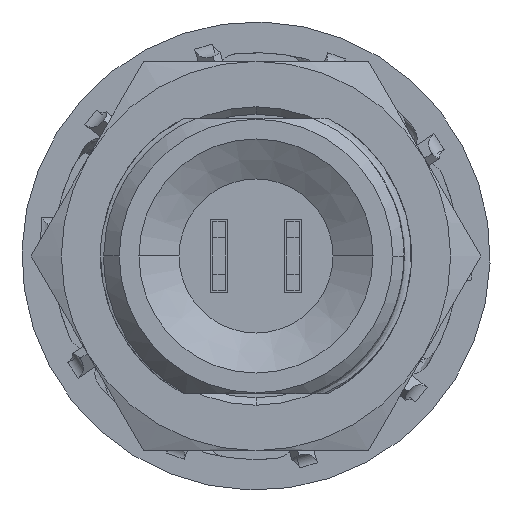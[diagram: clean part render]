
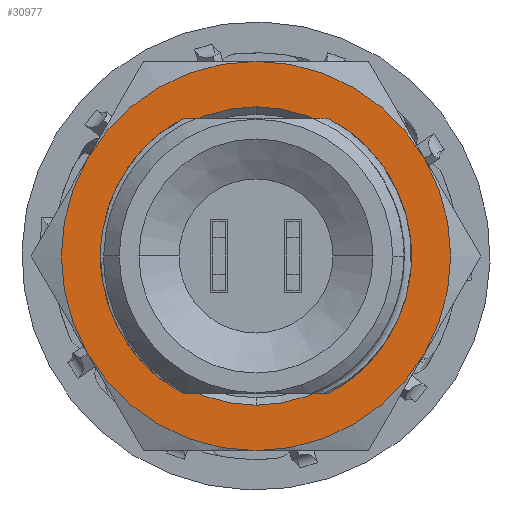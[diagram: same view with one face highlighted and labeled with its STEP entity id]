
A CAD part, left-side view. The second image highlights one B-rep face of the part: STEP entity #30977.
In plain terms, the highlighted planar face has unit normal (-1, 0, 0) as drawn and (0, 0, 1) by its records, which use the part's own axes.
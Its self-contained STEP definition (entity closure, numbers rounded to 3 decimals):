
#18238 = VERTEX_POINT ( 'NONE', #265879 ) ;
#20014 = DIRECTION ( 'NONE',  ( 0., 0., 1. ) ) ;
#20888 = FACE_OUTER_BOUND ( 'NONE', #335114, .T. ) ;
#21874 = DIRECTION ( 'NONE',  ( 1., 0., 0. ) ) ;
#24783 = CARTESIAN_POINT ( 'NONE',  ( 0., 0., 1.5 ) ) ;
#30977 = ADVANCED_FACE ( 'NONE', ( #335116, #20888 ), #221383, .T. ) ;
#33878 = ORIENTED_EDGE ( 'NONE', *, *, #48685, .T. ) ;
#36445 = CIRCLE ( 'NONE', #74350, 7.898 ) ;
#48685 = EDGE_CURVE ( 'NONE', #334148, #214132, #130630, .T. ) ;
#74350 = AXIS2_PLACEMENT_3D ( 'NONE', #24783, #159486, #21874 ) ;
#86738 = DIRECTION ( 'NONE',  ( 0., 0., 1. ) ) ;
#96583 = CIRCLE ( 'NONE', #145555, 6.054 ) ;
#100969 = EDGE_CURVE ( 'NONE', #125348, #18238, #96583, .T. ) ;
#125051 = DIRECTION ( 'NONE',  ( 1., 0., 0. ) ) ;
#125348 = VERTEX_POINT ( 'NONE', #295958 ) ;
#130630 = CIRCLE ( 'NONE', #221330, 7.898 ) ;
#138484 = ORIENTED_EDGE ( 'NONE', *, *, #100969, .T. ) ;
#144380 = CARTESIAN_POINT ( 'NONE',  ( 7.898, 0., 1.5 ) ) ;
#145555 = AXIS2_PLACEMENT_3D ( 'NONE', #321174, #259657, #125051 ) ;
#153270 = CIRCLE ( 'NONE', #153983, 6.054 ) ;
#153983 = AXIS2_PLACEMENT_3D ( 'NONE', #400405, #300863, #368172 ) ;
#159486 = DIRECTION ( 'NONE',  ( 0., 0., 1. ) ) ;
#209940 = EDGE_CURVE ( 'NONE', #214132, #334148, #36445, .T. ) ;
#213260 = CARTESIAN_POINT ( 'NONE',  ( -7.898, 0., 1.5 ) ) ;
#214132 = VERTEX_POINT ( 'NONE', #213260 ) ;
#221330 = AXIS2_PLACEMENT_3D ( 'NONE', #222024, #20014, #254217 ) ;
#221383 = PLANE ( 'NONE',  #238021 ) ;
#222024 = CARTESIAN_POINT ( 'NONE',  ( 0., 0., 1.5 ) ) ;
#238021 = AXIS2_PLACEMENT_3D ( 'NONE', #354560, #86738, #253574 ) ;
#253574 = DIRECTION ( 'NONE',  ( 1., 0., 0. ) ) ;
#254217 = DIRECTION ( 'NONE',  ( 1., 0., 0. ) ) ;
#259657 = DIRECTION ( 'NONE',  ( 0., 0., -1. ) ) ;
#265879 = CARTESIAN_POINT ( 'NONE',  ( 6.054, 0., 1.5 ) ) ;
#273710 = EDGE_CURVE ( 'NONE', #18238, #125348, #153270, .T. ) ;
#295958 = CARTESIAN_POINT ( 'NONE',  ( -6.054, 0., 1.5 ) ) ;
#300863 = DIRECTION ( 'NONE',  ( 0., 0., -1. ) ) ;
#321174 = CARTESIAN_POINT ( 'NONE',  ( 0., 0., 1.5 ) ) ;
#334148 = VERTEX_POINT ( 'NONE', #144380 ) ;
#335114 = EDGE_LOOP ( 'NONE', ( #369574, #33878 ) ) ;
#335116 = FACE_BOUND ( 'NONE', #433058, .T. ) ;
#354560 = CARTESIAN_POINT ( 'NONE',  ( 0., 0., 1.5 ) ) ;
#358533 = ORIENTED_EDGE ( 'NONE', *, *, #273710, .T. ) ;
#368172 = DIRECTION ( 'NONE',  ( 1., 0., 0. ) ) ;
#369574 = ORIENTED_EDGE ( 'NONE', *, *, #209940, .T. ) ;
#400405 = CARTESIAN_POINT ( 'NONE',  ( 0., 0., 1.5 ) ) ;
#433058 = EDGE_LOOP ( 'NONE', ( #358533, #138484 ) ) ;
